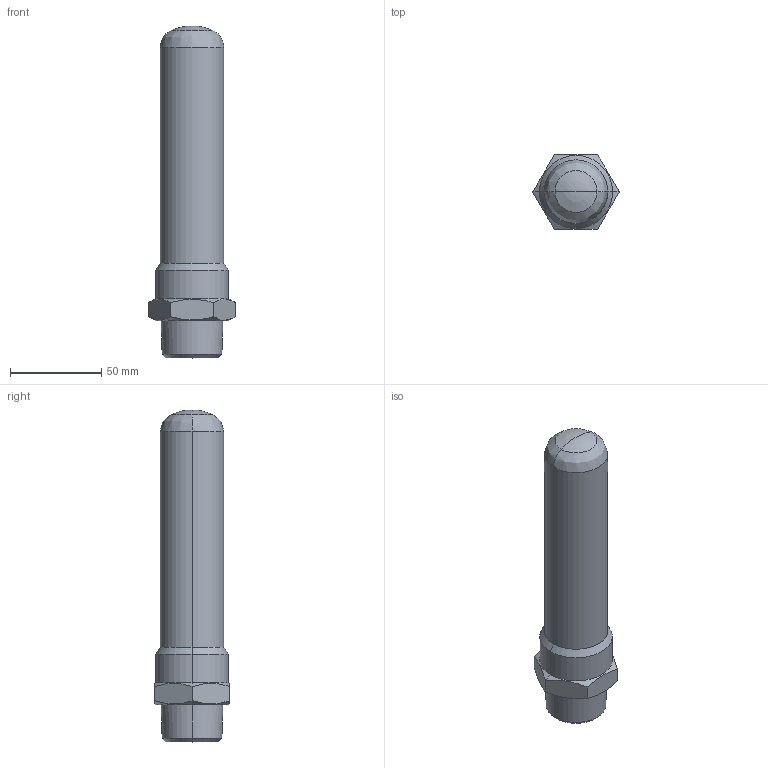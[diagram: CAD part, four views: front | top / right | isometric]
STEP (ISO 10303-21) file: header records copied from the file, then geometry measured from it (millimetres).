
FILE_DESCRIPTION( (''), '2;1');
FILE_NAME ('PC1027.11244.WP-1　25A_30168.stp','2025-07-25T15:04:24',(''),(''),'spGate 19.8.4 (****-****-****-****)','','');
FILE_SCHEMA (('AUTOMOTIVE_DESIGN'));
Length unit declared in the file: millimetre
Bounding box: 47.34 x 41 x 181.94 mm (x, y, z)
Volume: 178677.8 mm3; surface area: 22096.7 mm2
Topology: 1 solids, 1 shells, 28 faces, 62 edges, 34 vertices
Faces by surface type: bspline 16, plane 8, cylinder 4
Entity records: 1445 total; most frequent: CARTESIAN_POINT 464, ORIENTED_EDGE 116, COLOUR_RGB 87, PRESENTATION_STYLE_ASSIGNMENT 87, STYLED_ITEM 87, DIRECTION 70, EDGE_CURVE 58, DRAUGHTING_PRE_DEFINED_CURVE_FONT 58
